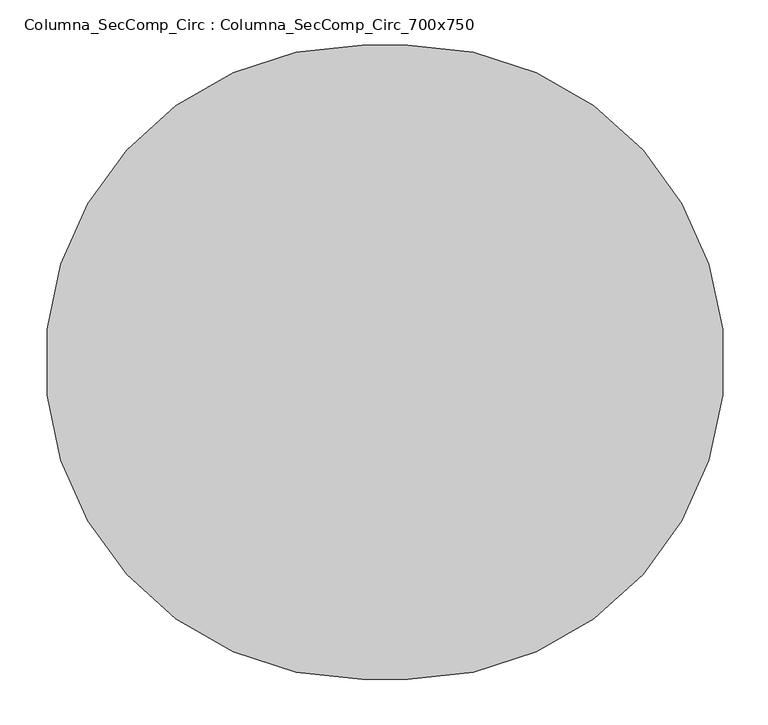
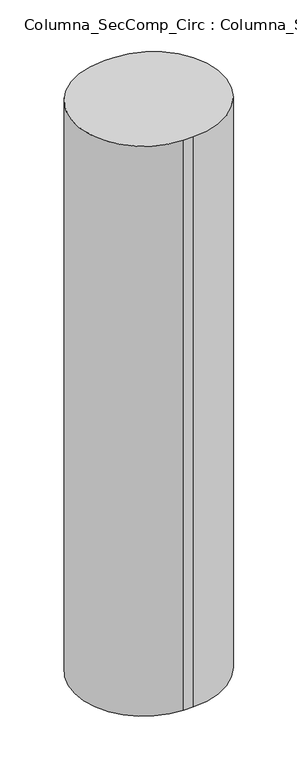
"""IFC4 building model written with IfcOpenShell, lengths in millimetres: column geometry, Columna_SecComp_Circ : Columna_SecComp_Circ_700x750."""

from ifc_helpers import new_model, si_unit, point, frame, frame_2d, origin, place, context, project, spatial, polyline, circle_curve, trimmed, segment, composite_curve, outline, extrude, source, transform, mapped, element, save


def columna_seccomp_circ_columna_seccomp_circ_700x750_0b81ce58(model_context):
    return source(origin(), model_context, "Body", "SweptSolid", [
        extrude(outline(composite_curve([segment(polyline([(-25.0, 350.0), (25.0, 350.0)]), True, "CONTINUOUS"), segment(trimmed(circle_curve(frame_2d((25.0, 0.0)), 350.0), [point((25.0, 350.0))], [point((25.0, -350.0))], False, "CARTESIAN"), True, "CONTINUOUS"), segment(polyline([(25.0, -350.0), (-25.0, -350.0)]), True, "CONTINUOUS"), segment(trimmed(circle_curve(frame_2d((-25.0, 0.0)), 350.0), [point((-25.0, -350.0))], [point((-25.0, 350.0))], False, "CARTESIAN"), True, "CONTINUOUS")], self_intersect=False)), frame((0.0, 0.0, -1600.0), z_axis=(0.0, 0.0, 1.0), x_axis=(1.0, 0.0, 0.0)), (0.0, 0.0, 1.0), 3050.0),
    ])


if __name__ == "__main__":
    model = new_model("IFC4")
    model_context = context("Model", 3, world=origin())
    ifc_project = project(units=[si_unit("LENGTHUNIT", "METRE", prefix="MILLI")], contexts=[model_context])
    site = spatial("IfcSite", under=ifc_project)
    building = spatial("IfcBuilding", under=site)
    placement = place(None, origin())
    columna_seccomp_circ_columna_seccomp_circ_700x750_shape = columna_seccomp_circ_columna_seccomp_circ_700x750_0b81ce58(model_context)
    element("IfcColumn", 1, ObjectType="Columna_SecComp_Circ : Columna_SecComp_Circ_700x750", at=placement, inside=building, context=model_context, shape_type="MappedRepresentation", body=[
        mapped(columna_seccomp_circ_columna_seccomp_circ_700x750_shape, transform((0.0, 0.0, 0.0), x_axis=(1.0, 0.0, 0.0), y_axis=(0.0, 1.0, 0.0), z_axis=(0.0, 0.0, 1.0))),
    ])
    save(model, "model.ifc")
